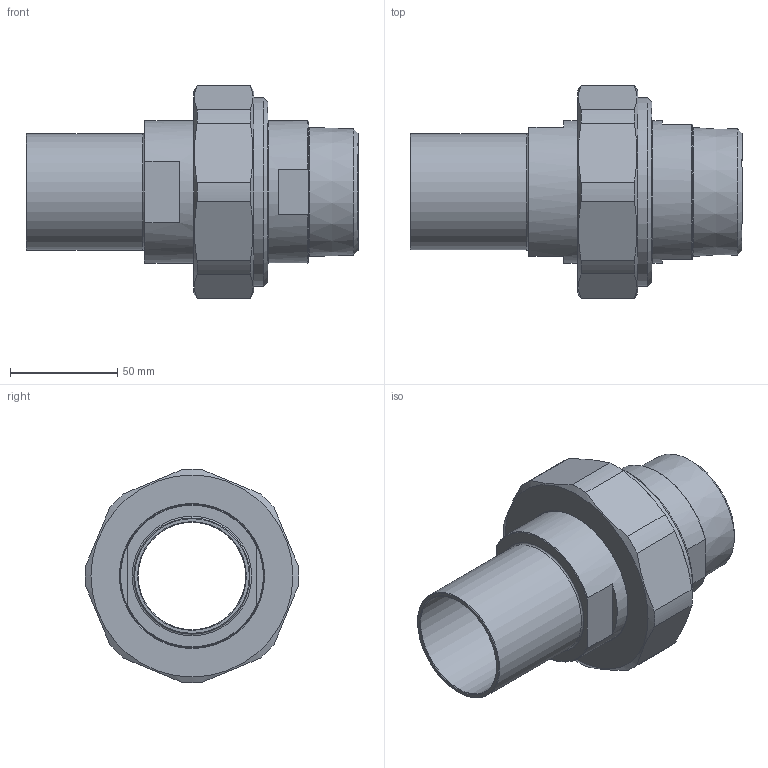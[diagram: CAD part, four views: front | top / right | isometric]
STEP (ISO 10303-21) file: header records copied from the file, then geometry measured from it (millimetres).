
FILE_DESCRIPTION(/* description */ (''),/* implementation_level */ '2;1');
FILE_NAME(/* name */ 'C:\Users\cad\Desktop\Zeichnungen neu von Ralph\Ganze Kupplungen\3D_Kupplung-R666-PE-UG\3D_R666-PE-UG-54-DN80-DN50_171130972.stp',/* time_stamp */ '2021-07-16T13:23:08+02:00',/* author */ ('cad'),/* organization */ (''),/* preprocessor_version */ 'ST-DEVELOPER v18.1',/* originating_system */ 'Autodesk Inventor 2022',/* authorisation */ '');
FILE_SCHEMA (('AUTOMOTIVE_DESIGN { 1 0 10303 214 3 1 1 }'));
Length unit declared in the file: millimetre
Products named in the file (4): 3D_R666-PE-UG-54-DN80-DN50_171130972; 3D_R666-M-DN80_17113980; 3D_R666-UG-DN50-DN80_17113665; 3D_R666-PE-54-DN80_17113488
Assembly tree (3 placements, depth 2):
  3D_R666-PE-UG-54-DN80-DN50_171130972
    3D_R666-M-DN80_17113980
    3D_R666-UG-DN50-DN80_17113665
    3D_R666-PE-54-DN80_17113488
Bounding box: 154.5 x 99.48 x 99.45 mm (x, y, z)
Volume: 270728.7 mm3; surface area: 90669.1 mm2
Topology: 3 solids, 3 shells, 69 faces, 171 edges, 113 vertices
Faces by surface type: plane 27, cone 20, cylinder 17, torus 5
Full cylindrical faces by diameter (mm): 50 x2, 54 x1, 66.5 x2, 67 x1, 82 x1, 84.926 x1, 87.8 x1
Entity records: 2222 total; most frequent: CARTESIAN_POINT 408, DIRECTION 389, ORIENTED_EDGE 342, EDGE_CURVE 171, AXIS2_PLACEMENT_3D 166, VERTEX_POINT 113, CIRCLE 90, EDGE_LOOP 80
